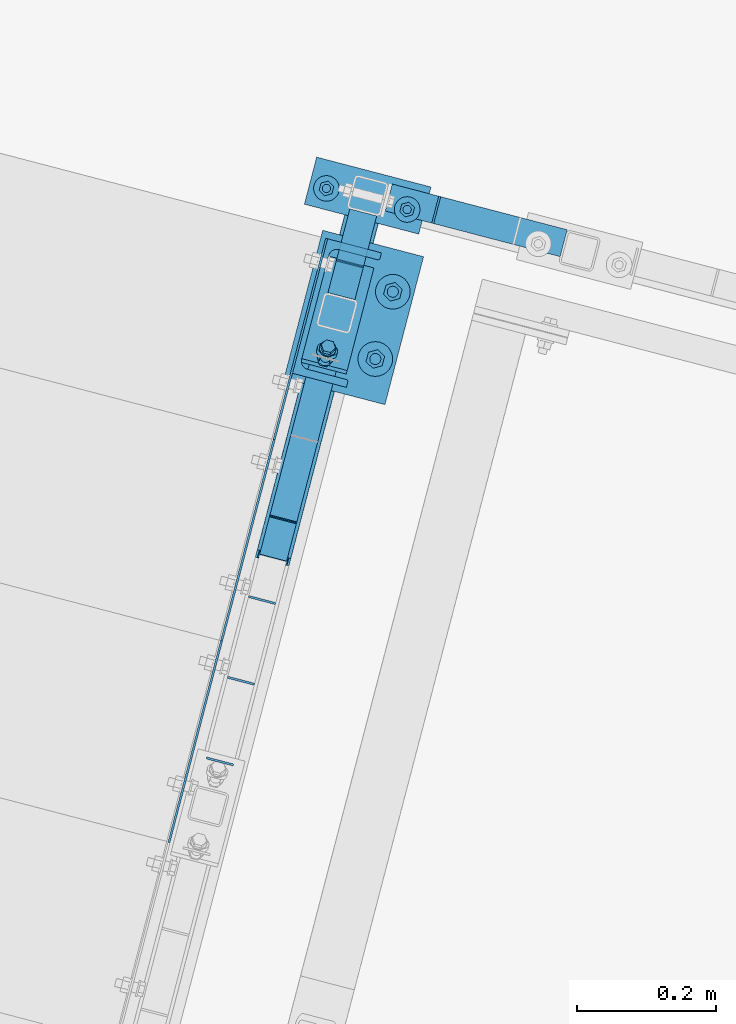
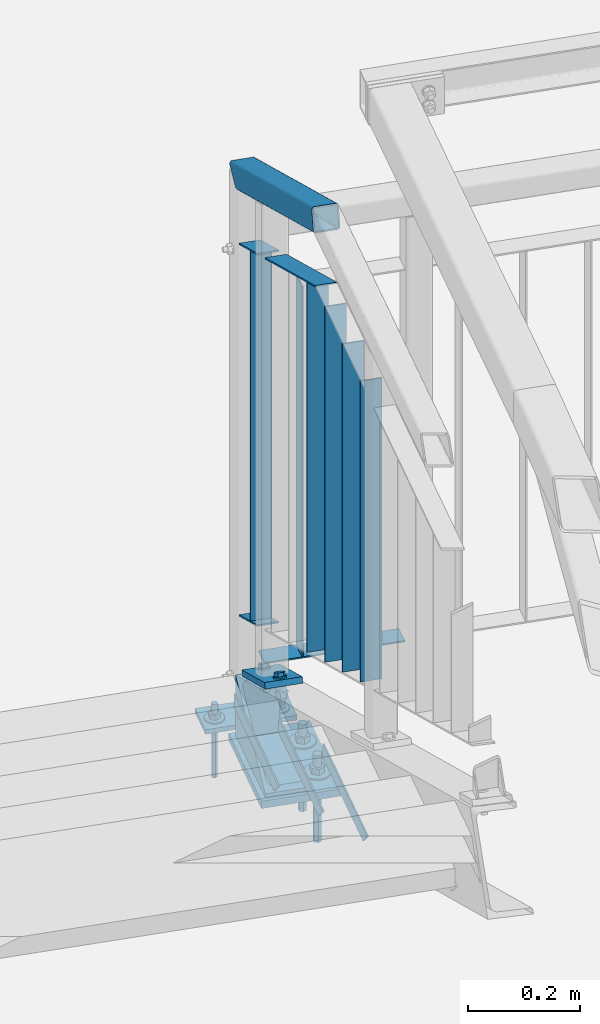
# One storey, part 94 of 169: 18 discrete accessories, 3 mechanical fasteners, 6 elements without a shape of their own.
"""IFC2X3 building model written with IfcOpenShell, lengths in millimetres."""

from ifc_helpers import new_model, si_unit, frame, frame_2d, origin_with_axes, origin_2d_with_axis, place, context, subcontext, project, spatial, polyline, circle_curve, parameter, trimmed, segment, composite_curve, rectangle, hollow_rectangle, circle, u_section, outline, extrude, boolean, clip, halfspace, source, transform, mapped, material, type_object, element, aggregate, save


model = new_model("IFC2X3")

# Units and contexts
model_context = context("Model", 3, precision=1e-05, world=origin_with_axes())
body_context = subcontext(model_context, "Body", "Model", "MODEL_VIEW")
ifc_project = project(units=[si_unit("LENGTHUNIT", "METRE", prefix="MILLI"), si_unit("AREAUNIT", "SQUARE_METRE"), si_unit("VOLUMEUNIT", "CUBIC_METRE"), si_unit("MASSUNIT", "GRAM", prefix="KILO"), si_unit("TIMEUNIT", "SECOND"), si_unit("PLANEANGLEUNIT", "RADIAN"), si_unit("SOLIDANGLEUNIT", "STERADIAN"), si_unit("THERMODYNAMICTEMPERATUREUNIT", "DEGREE_CELSIUS"), si_unit("LUMINOUSINTENSITYUNIT", "LUMEN")], contexts=[model_context])

# Site, building, storey
site_placement = place(None, origin_with_axes())
site = spatial("IfcSite", under=ifc_project, at=site_placement, Name="Undefined", CompositionType="ELEMENT")
building_placement = place(site_placement, origin_with_axes())
building = spatial("IfcBuilding", under=site, at=building_placement, Name="Undefined", CompositionType="ELEMENT")
storey_placement = place(building_placement, origin_with_axes())
storey = spatial("IfcBuildingStorey", under=building, at=storey_placement, Name="Undefined", CompositionType="ELEMENT", Elevation=0.0)

# Assembly, discrete accessories
assembly_1_placement = place(storey_placement, origin_with_axes())
assembly_1 = element("IfcElementAssembly", 1, at=assembly_1_placement, inside=storey, Name="Steel Assembly", AssemblyPlace="NOTDEFINED", PredefinedType="RIGID_FRAME")
ifc_material_1 = material(Name="STEEL/S235")
discrete_accessory_type_1 = type_object("IfcDiscreteAccessoryType", Name="BLACHA")
discrete_accessory_1_placement = place(assembly_1_placement, frame((-8625.82347102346, 20969.7358701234, 12570.4183764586), z_axis=(0.0, 0.0, 1.0), x_axis=(-0.252628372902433, -0.967563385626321, 0.0)))
discrete_accessory_1 = element("IfcDiscreteAccessory", 2, at=discrete_accessory_1_placement, type_object=discrete_accessory_type_1, material=ifc_material_1, Name="BLACHA", ObjectType="BL10*170", context=body_context, shape_type="SweptSolid", body=[
    extrude(outline(polyline([(70.0000000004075, -84.9999999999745), (-5.82076609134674e-11, -84.99999999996), (5.82076609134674e-11, 84.99999999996), (70.0000000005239, 84.9999999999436), (70.0000000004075, -84.9999999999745)])), frame((-1.81898926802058e-12, -1.18000176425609e-16, -5.00000000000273), z_axis=(0.0, 0.0, 1.0), x_axis=(1.0, 0.0, 0.0)), (0.0, 0.0, 1.0), 10.0),
])
discrete_accessory_2_placement = place(assembly_1_placement, frame((-8645.60302285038, 20755.4370199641, 12772.1166539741), z_axis=(0.111692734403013, 0.427781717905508, 0.896954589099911), x_axis=(-0.967563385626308, 0.252628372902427, -1.72000000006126e-07)))
discrete_accessory_2 = element("IfcDiscreteAccessory", 3, at=discrete_accessory_2_placement, type_object=discrete_accessory_type_1, material=ifc_material_1, Name="BLACHA", ObjectType="BL12*170", context=body_context, shape_type="SweptSolid", body=[
    extrude(outline(polyline([(70.0000000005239, 84.9999999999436), (70.0000000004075, -84.9999999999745), (-5.82076609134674e-11, -84.99999999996), (5.82076609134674e-11, 84.99999999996), (70.0000000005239, 84.9999999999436)])), frame((-1.81898942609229e-12, -1.81898940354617e-12, -5.99999999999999), z_axis=(0.0, 0.0, 1.0), x_axis=(1.0, 0.0, 0.0)), (0.0, 0.0, 1.0), 12.0),
])

# Assembly, discrete accessory
assembly_2_placement = place(storey_placement, origin_with_axes())
assembly_2 = element("IfcElementAssembly", 4, at=assembly_2_placement, inside=storey, Name="Steel Assembly", AssemblyPlace="NOTDEFINED", PredefinedType="RIGID_FRAME")
discrete_accessory_3_placement = place(assembly_2_placement, frame((-8682.3976213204, 20654.0980217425, 12573.7133592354), z_axis=(0.0, 0.0, 1.0), x_axis=(0.252628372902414, 0.967563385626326, 0.0)))
discrete_accessory_3 = element("IfcDiscreteAccessory", 5, at=discrete_accessory_3_placement, type_object=discrete_accessory_type_1, material=ifc_material_1, Name="BLACHA", ObjectType="BL16*150", context=body_context, shape_type="SweptSolid", body=[
    extrude(outline(polyline([(1.85900717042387e-09, 74.9999771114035), (219.999999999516, 74.9999999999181), (219.999999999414, -75.0000000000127), (-4.72937244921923e-11, -74.9999999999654), (1.85900717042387e-09, 74.9999771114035)])), frame((4.54778590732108e-13, 0.0, -8.0), z_axis=(0.0, 0.0, 1.0), x_axis=(1.0, 0.0, 0.0)), (0.0, 0.0, 1.0), 16.0),
])

# Assembly, discrete accessories
assembly_3_placement = place(storey_placement, origin_with_axes())
assembly_3 = element("IfcElementAssembly", 6, at=assembly_3_placement, inside=storey, Name="Steel Assembly", AssemblyPlace="NOTDEFINED", PredefinedType="RIGID_FRAME")
discrete_accessory_type_2 = type_object("IfcDiscreteAccessoryType", Name="PORĘCZ")
discrete_accessory_4_placement = place(assembly_3_placement, frame((-8536.08160922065, 20915.303540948, 13640.4183763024), z_axis=(0.967563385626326, -0.252628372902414, 0.0), x_axis=(-2.54700353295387e-10, 0.0, -1.0)))
discrete_accessory_4 = element("IfcDiscreteAccessory", 7, at=discrete_accessory_4_placement, type_object=discrete_accessory_type_2, material=ifc_material_1, Name="PORĘCZ", ObjectType="BL40*3", context=body_context, shape_type="Clipping", body=[
    clip(clip(clip(extrude(outline(polyline([(953.5, -20.0000000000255), (146.5, -20.0000000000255), (146.5, 20.0000000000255), (953.5, 20.0000000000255), (953.5, -20.0000000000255)])), frame((1.81898940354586e-12, -1.77635442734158e-15, -1.50000000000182), z_axis=(0.0, 0.0, 1.0), x_axis=(1.0, 0.0, 0.0)), (0.0, 0.0, 1.0), 3.0), halfspace(frame((146.5, 1000.00000000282, -1.78988557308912e-09), z_axis=(1.0, 0.0, 0.0), x_axis=(-2.54700353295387e-10, 0.0, -1.0)), True)), halfspace(frame((24.9999999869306, 1000.00000000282, -1.78988557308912e-09), z_axis=(1.0, 0.0, 0.0), x_axis=(-2.54700353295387e-10, 0.0, -1.0)), True)), halfspace(frame((953.5, 999.999999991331, -2.08819983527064e-09), z_axis=(-1.0, -3.46944695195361e-18, -1.38777878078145e-17), x_axis=(0.0, 0.0, 1.0)), True)),
])
discrete_accessory_5_placement = place(assembly_3_placement, frame((-8550.11127832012, 20918.9666523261, 12685.4183763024), z_axis=(0.0, 0.0, 1.0), x_axis=(0.967563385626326, -0.252628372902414, 0.0)))
discrete_accessory_5 = element("IfcDiscreteAccessory", 8, at=discrete_accessory_5_placement, type_object=discrete_accessory_type_2, material=ifc_material_1, Name="PORĘCZ", ObjectType="BL40*3", context=body_context, shape_type="CSG", body=[
    boolean("DIFFERENCE", boolean("DIFFERENCE", boolean("DIFFERENCE", extrude(outline(polyline([(-56.0820904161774, -20.0000000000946), (-56.0820904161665, 19.9999999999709), (204.000000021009, 20.0000000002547), (204.000000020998, -19.9999999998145), (-56.0820904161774, -20.0000000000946)])), frame((1.81898940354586e-12, -1.77635442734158e-15, -1.50000000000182), z_axis=(0.0, 0.0, 1.0), x_axis=(1.0, 0.0, 0.0)), (0.0, 0.0, 1.0), 3.0), extrude(rectangle(XDim=51.0, YDim=51.0, at=origin_2d_with_axis()), frame((230.00000000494, -2.41925590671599e-09, 140.0), z_axis=(-2.54700353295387e-10, 0.0, -1.0), x_axis=(-1.0, -3.46944695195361e-18, -1.38777878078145e-17)), (0.0, 0.0, 1.0), 280.0)), halfspace(frame((-56.0820904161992, 1000.0000000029, 0.0), z_axis=(1.0, 0.0, 0.0), x_axis=(-2.54700353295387e-10, 0.0, -1.0)), True)), halfspace(frame((204.0000000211, 999.999999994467, 0.0), z_axis=(-1.0, -3.46944695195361e-18, -1.38777878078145e-17), x_axis=(0.0, 0.0, 1.0)), True)),
])
aggregate(assembly_3, [discrete_accessory_4, discrete_accessory_5])

# Discrete accessory
discrete_accessory_6_placement = place(assembly_1_placement, frame((-8660.15321866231, 20838.25338393, 13787.2968376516), z_axis=(-0.252628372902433, -0.967563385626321, 0.0), x_axis=(-2.54700353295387e-10, 0.0, -1.0)))
discrete_accessory_6 = element("IfcDiscreteAccessory", 9, at=discrete_accessory_6_placement, type_object=discrete_accessory_type_2, material=ifc_material_1, Name="PORĘCZ", ObjectType="BL40*3", context=body_context, shape_type="Clipping", body=[
    clip(clip(extrude(outline(polyline([(941.939460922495, -19.9999999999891), (135.286984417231, -19.9999999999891), (135.286984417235, 19.9999999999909), (941.939460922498, 19.9999999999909), (941.939460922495, -19.9999999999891)])), frame((1.81898940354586e-12, -1.77635442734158e-15, -1.50000000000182), z_axis=(0.0, 0.0, 1.0), x_axis=(1.0, 0.0, 0.0)), (0.0, 0.0, 1.0), 3.0), halfspace(frame((134.957500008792, 999.999999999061, 0.665521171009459), z_axis=(0.89618489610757, -8.07050632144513e-16, 0.443680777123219), x_axis=(0.443680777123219, -6.25441316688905e-11, -0.89618489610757)), True)), halfspace(frame((942.26894532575, 999.999999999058, -0.665521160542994), z_axis=(-0.89618489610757, 8.07050632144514e-16, -0.443680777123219), x_axis=(-0.443680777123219, 6.25441316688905e-11, 0.89618489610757)), True)),
])

discrete_accessory_7_placement = place(assembly_1_placement, frame((-8661.82479639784, 20831.8512634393, 13656.9594152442), z_axis=(0.967563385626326, -0.252628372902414, 0.0), x_axis=(0.226401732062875, 0.867115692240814, -0.443680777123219)))
discrete_accessory_7 = element("IfcDiscreteAccessory", 10, at=discrete_accessory_7_placement, type_object=discrete_accessory_type_2, material=ifc_material_1, Name="PORĘCZ", ObjectType="BL40*3", context=body_context, shape_type="Clipping", body=[
    clip(clip(extrude(rectangle(XDim=3.0, YDim=40.0, at=origin_2d_with_axis()), frame((111.2647390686, 1.2352867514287e-14, -1.81546690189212e-12), z_axis=(-1.0, -3.46944695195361e-18, -1.38777878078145e-17), x_axis=(1.73472347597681e-18, -1.0, 0.0)), (0.0, 0.0, 1.0), 177.54), halfspace(frame((97.5561730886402, -11.0920194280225, 999.999999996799), z_axis=(-0.896184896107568, -0.443680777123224, -5.60462156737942e-11), x_axis=(0.44368077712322, -0.89618489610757, 2.77484007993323e-11)), True)), halfspace(frame((-52.5629519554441, 11.0920194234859, 1000.0000000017), z_axis=(0.896184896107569, 0.443680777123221, 5.60551815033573e-11), x_axis=(-0.443680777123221, 0.896184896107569, -2.77505023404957e-11)), True)),
])

discrete_accessory_8_placement = place(assembly_1_placement, frame((-8678.83970480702, 20766.6843848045, 12880.3036293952), z_axis=(0.967563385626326, -0.252628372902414, 0.0), x_axis=(0.226401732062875, 0.867115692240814, -0.443680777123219)))
discrete_accessory_8 = element("IfcDiscreteAccessory", 11, at=discrete_accessory_8_placement, type_object=discrete_accessory_type_2, material=ifc_material_1, Name="PORĘCZ", ObjectType="BL40*3", context=body_context, shape_type="CSG", body=[
    boolean("DIFFERENCE", boolean("DIFFERENCE", extrude(rectangle(XDim=3.0, YDim=40.0, at=origin_2d_with_axis()), frame((176.818367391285, -3.62816341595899e-12, 1.82344416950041e-12), z_axis=(-1.0, -3.46944695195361e-18, -1.38777878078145e-17), x_axis=(1.73472347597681e-18, -1.0, 0.0)), (0.0, 0.0, 1.0), 176.82), extrude(rectangle(XDim=51.0, YDim=51.0, at=origin_2d_with_axis()), frame((-62.1153087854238, 125.465885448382, -3.44399542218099e-09), z_axis=(0.44368077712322, -0.89618489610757, 2.77484007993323e-11), x_axis=(0.896184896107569, 0.443680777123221, 5.60551815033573e-11)), (0.0, 0.0, 1.0), 280.0)), halfspace(frame((172.70978775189, -11.0920194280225, 999.999999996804), z_axis=(-0.896184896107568, -0.443680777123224, -5.60462156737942e-11), x_axis=(0.44368077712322, -0.89618489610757, 2.77484007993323e-11)), True)),
])

discrete_accessory_9_placement = place(assembly_1_placement, frame((-8882.87970195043, 19985.2138454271, 14235.161986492), z_axis=(0.967563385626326, -0.252628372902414, 0.0), x_axis=(0.226401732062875, 0.867115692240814, -0.443680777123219)))
discrete_accessory_9 = element("IfcDiscreteAccessory", 12, at=discrete_accessory_9_placement, type_object=discrete_accessory_type_2, material=ifc_material_1, Name="PORĘCZ", ObjectType="SHS50*3", context=body_context, shape_type="Clipping", body=[
    clip(clip(extrude(hollow_rectangle(XDim=50.0, YDim=50.0, WallThickness=3.0, InnerFilletRadius=3.0, OuterFilletRadius=6.0, at=origin_2d_with_axis()), frame((1164.54989500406, 6.46455053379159e-14, 3.66003693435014e-12), z_axis=(-1.0, -3.46944695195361e-18, -1.38777878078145e-17), x_axis=(1.73472347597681e-18, -1.0, 0.0)), (0.0, 0.0, 1.0), 737.48), halfspace(frame((1111.86335061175, 25.0000000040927, -1.25510268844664e-10), z_axis=(0.849611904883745, -0.527408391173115, 5.31366933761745e-11), x_axis=(-2.54700353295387e-10, 0.0, -1.0)), False)), halfspace(frame((489.426209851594, 25.0000000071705, 3.73984221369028e-09), z_axis=(-0.973700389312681, -0.227832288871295, -6.09027876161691e-11), x_axis=(0.0, 0.0, 1.0)), False)),
])

discrete_accessory_10_placement = place(assembly_1_placement, frame((-8818.03424404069, 20233.5711087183, 13963.0839685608), z_axis=(0.967563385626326, -0.252628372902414, 0.0), x_axis=(0.226401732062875, 0.867115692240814, -0.443680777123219)))
discrete_accessory_10 = element("IfcDiscreteAccessory", 13, at=discrete_accessory_10_placement, type_object=discrete_accessory_type_2, material=ifc_material_1, Name="PORĘCZ", ObjectType="BL40*3", context=body_context, shape_type="CSG", body=[
    boolean("DIFFERENCE", boolean("DIFFERENCE", boolean("DIFFERENCE", extrude(rectangle(XDim=3.0, YDim=40.0, at=origin_2d_with_axis()), frame((606.54197081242, 3.36698430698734e-14, 2.1432836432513e-14), z_axis=(-1.0, -3.46944695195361e-18, -1.38777878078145e-17), x_axis=(1.73472347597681e-18, -1.0, 0.0)), (0.0, 0.0, 1.0), 417.12), extrude(rectangle(XDim=51.0, YDim=51.0, at=origin_2d_with_axis()), frame((-262.291557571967, 125.46588545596, -1.2037254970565e-08), z_axis=(0.44368077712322, -0.89618489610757, 2.77484007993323e-11), x_axis=(0.896184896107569, 0.443680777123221, 5.60551815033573e-11)), (0.0, 0.0, 1.0), 280.0)), halfspace(frame((592.593582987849, -11.0920194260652, 999.999999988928), z_axis=(-0.896184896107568, -0.443680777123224, -5.60462156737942e-11), x_axis=(0.44368077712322, -0.89618489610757, 2.77484007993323e-11)), True)), halfspace(frame((208.50720362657, 1.50000000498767, 1.57850081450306e-07), z_axis=(0.973700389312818, 0.22783228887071, 6.08992453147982e-11), x_axis=(-2.54700353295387e-10, 0.0, -1.0)), True)),
])

discrete_accessory_11_placement = place(assembly_1_placement, frame((-8847.21612635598, 20121.8048780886, 14165.2718715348), z_axis=(-0.252628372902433, -0.967563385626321, 0.0), x_axis=(-2.54700353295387e-10, 0.0, -1.0)))
discrete_accessory_11 = element("IfcDiscreteAccessory", 14, at=discrete_accessory_11_placement, type_object=discrete_accessory_type_2, material=ifc_material_1, Name="PORĘCZ", ObjectType="BL40*3", context=body_context, shape_type="Clipping", body=[
    clip(clip(extrude(outline(polyline([(953.326238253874, -19.9999999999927), (296.35426377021, -19.9999999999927), (296.35426377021, 19.9999999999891), (953.326238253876, 19.9999999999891), (953.326238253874, -19.9999999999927)])), frame((1.81898940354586e-12, -1.77635442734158e-15, -1.50000000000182), z_axis=(0.0, 0.0, 1.0), x_axis=(1.0, 0.0, 0.0)), (0.0, 0.0, 1.0), 3.0), halfspace(frame((296.354263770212, 999.9999999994, 5.73709257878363e-09), z_axis=(1.0, 0.0, 0.0), x_axis=(-2.54700353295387e-10, 0.0, -1.0)), True)), halfspace(frame((953.655722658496, 999.999999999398, -0.665521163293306), z_axis=(-0.89618489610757, 8.07050632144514e-16, -0.443680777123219), x_axis=(-0.443680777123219, 6.25441316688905e-11, 0.89618489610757)), True)),
])

discrete_accessory_12_placement = place(assembly_1_placement, frame((-8816.90072160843, 20237.9124843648, 14105.8625984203), z_axis=(-0.252628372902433, -0.967563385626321, 0.0), x_axis=(-2.54700353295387e-10, 0.0, -1.0)))
discrete_accessory_12 = element("IfcDiscreteAccessory", 15, at=discrete_accessory_12_placement, type_object=discrete_accessory_type_2, material=ifc_material_1, Name="PORĘCZ", ObjectType="BL40*3", context=body_context, shape_type="Clipping", body=[
    clip(clip(extrude(outline(polyline([(953.326238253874, -19.9999999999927), (236.944990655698, -19.9999999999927), (236.944990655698, 19.9999999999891), (953.326238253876, 19.9999999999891), (953.326238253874, -19.9999999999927)])), frame((1.81898940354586e-12, -1.77635442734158e-15, -1.50000000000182), z_axis=(0.0, 0.0, 1.0), x_axis=(1.0, 0.0, 0.0)), (0.0, 0.0, 1.0), 3.0), halfspace(frame((236.9449906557, 999.999999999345, 5.43877831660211e-09), z_axis=(1.0, 0.0, 0.0), x_axis=(-2.54700353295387e-10, 0.0, -1.0)), True)), halfspace(frame((953.655722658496, 999.999999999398, -0.665521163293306), z_axis=(-0.89618489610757, 8.07050632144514e-16, -0.443680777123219), x_axis=(-0.443680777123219, 6.25441316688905e-11, 0.89618489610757)), True)),
])

discrete_accessory_13_placement = place(assembly_1_placement, frame((-8786.58531686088, 20354.020090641, 14046.4533253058), z_axis=(-0.252628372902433, -0.967563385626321, 0.0), x_axis=(-2.54700353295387e-10, 0.0, -1.0)))
discrete_accessory_13 = element("IfcDiscreteAccessory", 16, at=discrete_accessory_13_placement, type_object=discrete_accessory_type_2, material=ifc_material_1, Name="PORĘCZ", ObjectType="BL40*3", context=body_context, shape_type="Clipping", body=[
    clip(clip(clip(extrude(outline(polyline([(953.326238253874, -19.9999999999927), (177.535717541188, -19.9999999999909), (177.535717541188, 19.9999999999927), (953.326238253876, 19.9999999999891), (953.326238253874, -19.9999999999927)])), frame((1.81898940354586e-12, -1.77635442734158e-15, -1.50000000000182), z_axis=(0.0, 0.0, 1.0), x_axis=(1.0, 0.0, 0.0)), (0.0, 0.0, 1.0), 3.0), halfspace(frame((177.53571754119, 999.999999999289, 5.12591213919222e-09), z_axis=(1.0, 0.0, 0.0), x_axis=(-2.54700353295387e-10, 0.0, -1.0)), True)), halfspace(frame((146.34427734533, 999.999999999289, 0.66552116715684), z_axis=(0.89618489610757, -8.07050632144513e-16, 0.443680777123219), x_axis=(0.443680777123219, -6.25441316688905e-11, -0.89618489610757)), True)), halfspace(frame((953.655722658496, 999.999999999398, -0.665521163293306), z_axis=(-0.89618489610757, 8.07050632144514e-16, -0.443680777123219), x_axis=(-0.443680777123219, 6.25441316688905e-11, 0.89618489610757)), True)),
])

discrete_accessory_14_placement = place(assembly_1_placement, frame((-8756.26991211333, 20470.1276969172, 13987.0440521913), z_axis=(-0.252628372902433, -0.967563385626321, 0.0), x_axis=(-2.54700353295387e-10, 0.0, -1.0)))
discrete_accessory_14 = element("IfcDiscreteAccessory", 17, at=discrete_accessory_14_placement, type_object=discrete_accessory_type_2, material=ifc_material_1, Name="PORĘCZ", ObjectType="BL40*3", context=body_context, shape_type="Clipping", body=[
    clip(clip(clip(extrude(outline(polyline([(953.326238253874, -19.9999999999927), (146.673761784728, -19.9999999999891), (146.67376178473, 19.9999999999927), (953.326238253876, 19.9999999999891), (953.326238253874, -19.9999999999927)])), frame((1.81898940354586e-12, -1.77635442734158e-15, -1.50000000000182), z_axis=(0.0, 0.0, 1.0), x_axis=(1.0, 0.0, 0.0)), (0.0, 0.0, 1.0), 3.0), halfspace(frame((146.34427734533, 999.999999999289, 0.66552116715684), z_axis=(0.89618489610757, -8.07050632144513e-16, 0.443680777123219), x_axis=(0.443680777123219, -6.25441316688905e-11, -0.89618489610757)), True)), halfspace(frame((146.34427734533, 999.999999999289, 0.66552116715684), z_axis=(0.89618489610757, -8.07050632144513e-16, 0.443680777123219), x_axis=(0.443680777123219, -6.25441316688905e-11, -0.89618489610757)), True)), halfspace(frame((953.655722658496, 999.999999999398, -0.665521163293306), z_axis=(-0.89618489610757, 8.07050632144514e-16, -0.443680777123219), x_axis=(-0.443680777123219, 6.25441316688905e-11, 0.89618489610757)), True)),
])

# Mechanical fastener
ifc_material_2 = material(Name="Undefined")
discrete_accessory_type_3 = type_object("IfcDiscreteAccessoryType", Name="Bolt assembly")
shared_shape_1 = source(origin_with_axes(), body_context, "Body", "SweptSolid", [
    extrude(outline(composite_curve([segment(polyline([(-7.5, 8.5), (7.5, 8.5)]), True, "CONTINUOUS"), segment(trimmed(circle_curve(frame_2d((7.5, 0.0), x_axis=(0.0, 1.0)), 8.5), [parameter(0.0)], [parameter(3.14159265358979)], False, "PARAMETER"), True, "CONTINUOUS"), segment(polyline([(7.5, -8.5), (-7.5, -8.5)]), True, "CONTINUOUS"), segment(trimmed(circle_curve(frame_2d((-7.5, 0.0), x_axis=(0.0, -1.0)), 8.5), [parameter(0.0)], [parameter(3.14159265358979)], False, "PARAMETER"), True, "DISCONTINUOUS")], self_intersect=False)), frame((0.0, -10.0, 0.0), z_axis=(0.0, 1.0, 0.0), x_axis=(1.0, 0.0, 0.0)), (0.0, 0.0, 1.0), 10.1),
    extrude(outline(polyline([(5.80237031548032, 0.0), (2.90118515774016, 5.02500009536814), (-2.90118515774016, 5.02500009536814), (-5.80237031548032, 0.0), (-2.90118515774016, -5.02500009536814), (2.90118515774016, -5.02500009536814), (5.80237031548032, 0.0)])), frame((0.0, -126.0, 0.0), z_axis=(0.0, 1.0, 0.0), x_axis=(1.0, 0.0, 0.0)), (0.0, 0.0, 1.0), 116.0),
    extrude(circle(Radius=6.0, at=origin_2d_with_axis()), frame((0.0, -10.0, 0.0), z_axis=(0.0, 1.0, 0.0), x_axis=(1.0, 0.0, 0.0)), (0.0, 0.0, 1.0), 44.0),
    extrude(circle(Radius=18.5, at=origin_2d_with_axis()), frame((0.0, 0.0, 0.0), z_axis=(0.0, 1.0, 0.0), x_axis=(1.0, 0.0, 0.0)), (0.0, 0.0, 1.0), 3.0),
    extrude(outline(polyline([(10.96965511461, 0.0), (5.484827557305, 9.50000000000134), (-5.484827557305, 9.50000000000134), (-10.96965511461, 0.0), (-5.484827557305, -9.50000000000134), (5.484827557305, -9.50000000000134), (10.96965511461, 0.0)])), frame((0.0, 2.99999999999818, 0.0), z_axis=(0.0, 1.0, 0.0), x_axis=(1.0, 0.0, 0.0)), (0.0, 0.0, 1.0), 10.0),
])
mechanical_fastener_1_placement = place(assembly_1_placement, frame((-8639.71803153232, 20916.5198839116, 12575.4183764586), z_axis=(0.967563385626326, -0.252628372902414, 0.0), x_axis=(0.252628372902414, 0.967563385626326, 0.0)))
mechanical_fastener_1 = element("IfcMechanicalFastener", 18, at=mechanical_fastener_1_placement, type_object=discrete_accessory_type_3, material=ifc_material_2, Name="Bolt assembly", NominalDiameter=12.0, NominalLength=44.0, context=body_context, shape_type="MappedRepresentation", body=[
    mapped(shared_shape_1, transform((15.0000000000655, 0.0, -59.9999999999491))),
    mapped(shared_shape_1, transform((15.0000000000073, 0.0, 59.9999999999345))),
])

# Assembly, discrete accessory
assembly_4_placement = place(storey_placement, origin_with_axes())
assembly_4 = element("IfcElementAssembly", 19, at=assembly_4_placement, inside=storey, Name="Steel Assembly", AssemblyPlace="NOTDEFINED", PredefinedType="RIGID_FRAME")
ifc_material_3 = material(Name="STEEL/S235JR")
discrete_accessory_type_4 = type_object("IfcDiscreteAccessoryType", Name="ANGLE")
discrete_accessory_15_placement = place(assembly_4_placement, frame((-8844.79103921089, 20295.3658513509, 12953.5365255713), z_axis=(-0.967563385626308, 0.252628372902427, -1.72000000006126e-07), x_axis=(-0.252628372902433, -0.967563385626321, 0.0)))
discrete_accessory_15 = element("IfcDiscreteAccessory", 20, at=discrete_accessory_15_placement, type_object=discrete_accessory_type_4, material=ifc_material_3, Name="ANGLE", ObjectType="3*30", context=body_context, shape_type="CSG", body=[
    boolean("DIFFERENCE", extrude(rectangle(XDim=30.0, YDim=3.0, at=origin_2d_with_axis()), frame((300.000000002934, 1.81898940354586e-12, -1.81898940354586e-12), z_axis=(-1.0, -3.46944695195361e-18, -1.38777878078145e-17), x_axis=(1.73472347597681e-18, -1.0, 0.0)), (0.0, 0.0, 1.0), 300.0), extrude(outline(polyline([(0.0, 0.0), (30.0000000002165, -6.73026079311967e-11), (-1.63709046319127e-10, 30.0000000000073), (0.0, 0.0)])), frame((300.000000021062, -15.0000000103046, 4.50000000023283), z_axis=(-2.54700353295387e-10, 0.0, -1.0), x_axis=(-1.0, -3.46944695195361e-18, -1.38777878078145e-17)), (0.0, 0.0, 1.0), 9.0)),
])
aggregate(assembly_4, [discrete_accessory_15])

assembly_5_placement = place(storey_placement, origin_with_axes())
assembly_5 = element("IfcElementAssembly", 21, at=assembly_5_placement, inside=storey, Name="Steel Assembly", AssemblyPlace="NOTDEFINED", PredefinedType="RIGID_FRAME")
discrete_accessory_16_placement = place(assembly_5_placement, frame((-8769.23983401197, 20584.7259855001, 12806.1249424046), z_axis=(-0.967563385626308, 0.252628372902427, -1.72000000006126e-07), x_axis=(-0.252628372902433, -0.967563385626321, 0.0)))
discrete_accessory_16 = element("IfcDiscreteAccessory", 22, at=discrete_accessory_16_placement, type_object=discrete_accessory_type_4, material=ifc_material_3, Name="ANGLE", ObjectType="3*30", context=body_context, shape_type="CSG", body=[
    boolean("DIFFERENCE", extrude(rectangle(XDim=30.0, YDim=3.0, at=origin_2d_with_axis()), frame((300.000000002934, 1.81898940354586e-12, -1.81898940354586e-12), z_axis=(-1.0, -3.46944695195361e-18, -1.38777878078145e-17), x_axis=(1.73472347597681e-18, -1.0, 0.0)), (0.0, 0.0, 1.0), 300.0), extrude(outline(polyline([(0.0, 0.0), (30.0000000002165, -6.73026079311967e-11), (-1.63709046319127e-10, 30.0000000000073), (0.0, 0.0)])), frame((300.000000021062, -15.0000000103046, 4.50000000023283), z_axis=(-2.54700353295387e-10, 0.0, -1.0), x_axis=(-1.0, -3.46944695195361e-18, -1.38777878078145e-17)), (0.0, 0.0, 1.0), 9.0)),
])
aggregate(assembly_5, [discrete_accessory_16])

assembly_6_placement = place(storey_placement, origin_with_axes())
assembly_6 = element("IfcElementAssembly", 23, at=assembly_6_placement, inside=storey, Name="Steel Assembly", AssemblyPlace="NOTDEFINED", PredefinedType="RIGID_FRAME")
discrete_accessory_17_placement = place(assembly_6_placement, frame((-8693.68862881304, 20874.0861196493, 12658.713359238), z_axis=(-0.967563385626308, 0.252628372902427, -1.72000000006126e-07), x_axis=(-0.252628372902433, -0.967563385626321, 0.0)))
discrete_accessory_17 = element("IfcDiscreteAccessory", 24, at=discrete_accessory_17_placement, type_object=discrete_accessory_type_4, material=ifc_material_3, Name="ANGLE", ObjectType="3*30", context=body_context, shape_type="CSG", body=[
    boolean("DIFFERENCE", extrude(rectangle(XDim=30.0, YDim=3.0, at=origin_2d_with_axis()), frame((300.000000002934, 1.81898940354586e-12, -1.81898940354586e-12), z_axis=(-1.0, -3.46944695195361e-18, -1.38777878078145e-17), x_axis=(1.73472347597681e-18, -1.0, 0.0)), (0.0, 0.0, 1.0), 300.0), extrude(outline(polyline([(0.0, 0.0), (30.0000000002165, -6.73026079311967e-11), (-1.63709046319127e-10, 30.0000000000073), (0.0, 0.0)])), frame((300.000000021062, -15.0000000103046, 4.50000000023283), z_axis=(-2.54700353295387e-10, 0.0, -1.0), x_axis=(-1.0, -3.46944695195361e-18, -1.38777878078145e-17)), (0.0, 0.0, 1.0), 9.0)),
])
aggregate(assembly_6, [discrete_accessory_17])

# Mechanical fastener
shared_shape_2 = source(origin_with_axes(), body_context, "Body", "SweptSolid", [
    extrude(outline(composite_curve([segment(polyline([(7.5, 7.5), (7.5, -7.5)]), True, "CONTINUOUS"), segment(trimmed(circle_curve(frame_2d((0.0, -7.5), x_axis=(1.0, 0.0)), 7.5), [parameter(0.0)], [parameter(3.14159265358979)], False, "PARAMETER"), True, "CONTINUOUS"), segment(polyline([(-7.5, -7.5), (-7.5, 7.5)]), True, "CONTINUOUS"), segment(trimmed(circle_curve(frame_2d((0.0, 7.5), x_axis=(-1.0, 0.0)), 7.5), [parameter(0.0)], [parameter(3.14159265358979)], False, "PARAMETER"), True, "DISCONTINUOUS")], self_intersect=False)), frame((0.0, 0.900000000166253, 0.0), z_axis=(0.0, 1.0, 0.0), x_axis=(1.0, 0.0, 0.0)), (0.0, 0.0, 1.0), 11.1),
    extrude(outline(composite_curve([segment(polyline([(-7.5, 7.5), (7.5, 7.5)]), True, "CONTINUOUS"), segment(trimmed(circle_curve(frame_2d((7.5, 0.0), x_axis=(0.0, 1.0)), 7.5), [parameter(0.0)], [parameter(3.14159265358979)], False, "PARAMETER"), True, "CONTINUOUS"), segment(polyline([(7.5, -7.5), (-7.5, -7.5)]), True, "CONTINUOUS"), segment(trimmed(circle_curve(frame_2d((-7.5, 0.0), x_axis=(0.0, -1.0)), 7.5), [parameter(0.0)], [parameter(3.14159265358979)], False, "PARAMETER"), True, "DISCONTINUOUS")], self_intersect=False)), frame((0.0, -11.9000000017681, 0.0), z_axis=(0.0, 1.0, 0.0), x_axis=(1.0, 0.0, 0.0)), (0.0, 0.0, 1.0), 12.0),
    extrude(outline(polyline([(10.39230484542, 0.0), (5.19615242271, 9.00000000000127), (-5.19615242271, 9.00000000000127), (-10.39230484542, 0.0), (-5.19615242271, -9.00000000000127), (5.19615242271, -9.00000000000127), (10.39230484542, 0.0)])), frame((0.0, -22.5000000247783, 0.0), z_axis=(0.0, 1.0, 0.0), x_axis=(1.0, 0.0, 0.0)), (0.0, 0.0, 1.0), 7.5),
    extrude(circle(Radius=6.0, at=origin_2d_with_axis()), frame((0.0, -15.0000000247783, 0.0), z_axis=(0.0, 1.0, 0.0), x_axis=(1.0, 0.0, 0.0)), (0.0, 0.0, 1.0), 45.0),
    extrude(circle(Radius=12.0, at=origin_2d_with_axis()), frame((0.0, -15.0000000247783, 0.0), z_axis=(0.0, 1.0, 0.0), x_axis=(1.0, 0.0, 0.0)), (0.0, 0.0, 1.0), 3.0),
    extrude(circle(Radius=12.0, at=origin_2d_with_axis()), frame((0.0, 12.000000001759, 0.0), z_axis=(0.0, 1.0, 0.0), x_axis=(1.0, 0.0, 0.0)), (0.0, 0.0, 1.0), 3.0),
    extrude(outline(polyline([(10.96965511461, 0.0), (5.484827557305, 9.50000000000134), (-5.484827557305, 9.50000000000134), (-10.96965511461, 0.0), (-5.484827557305, -9.50000000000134), (5.484827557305, -9.50000000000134), (10.96965511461, 0.0)])), frame((0.0, 14.9999935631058, 0.0), z_axis=(0.0, 1.0, 0.0), x_axis=(1.0, 0.0, 0.0)), (0.0, 0.0, 1.0), 10.0),
])
mechanical_fastener_2_placement = place(assembly_1_placement, frame((-8704.3269823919, 20768.0280320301, 12766.7349264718), z_axis=(0.226596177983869, 0.867860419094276, -0.442122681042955), x_axis=(0.967563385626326, -0.252628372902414, 0.0)))
mechanical_fastener_2 = element("IfcMechanicalFastener", 25, at=mechanical_fastener_2_placement, type_object=discrete_accessory_type_3, material=ifc_material_2, Name="Bolt assembly", NominalDiameter=12.0, NominalLength=45.0, context=body_context, shape_type="MappedRepresentation", body=[
    mapped(shared_shape_2, transform((24.9999999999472, 0.0, -60.0000000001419))),
    mapped(shared_shape_2, transform((24.9999999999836, -3.54702933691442e-11, 60.0000000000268))),
])

aggregate(assembly_1, [mechanical_fastener_1, discrete_accessory_1, mechanical_fastener_2, discrete_accessory_2, discrete_accessory_6, discrete_accessory_7, discrete_accessory_8, discrete_accessory_9, discrete_accessory_10, discrete_accessory_11, discrete_accessory_12, discrete_accessory_13, discrete_accessory_14])

shared_shape_3 = source(origin_with_axes(), body_context, "Body", "SweptSolid", [
    extrude(outline(composite_curve([segment(polyline([(-12.5, 10.5), (12.5, 10.5)]), True, "CONTINUOUS"), segment(trimmed(circle_curve(frame_2d((12.5, 0.0), x_axis=(0.0, 1.0)), 10.5), [parameter(0.0)], [parameter(3.14159265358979)], False, "PARAMETER"), True, "CONTINUOUS"), segment(polyline([(12.5, -10.5), (-12.5, -10.5)]), True, "CONTINUOUS"), segment(trimmed(circle_curve(frame_2d((-12.5, 0.0), x_axis=(0.0, -1.0)), 10.5), [parameter(0.0)], [parameter(3.14159265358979)], False, "PARAMETER"), True, "DISCONTINUOUS")], self_intersect=False)), frame((0.0, -16.0000000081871, 0.0), z_axis=(0.0, 1.0, 0.0), x_axis=(1.0, 0.0, 0.0)), (0.0, 0.0, 1.0), 16.1),
    extrude(outline(polyline([(7.73649338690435, 0.0), (3.86824669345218, 6.69999980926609), (-3.86824669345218, 6.69999980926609), (-7.73649338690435, 0.0), (-3.86824669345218, -6.69999980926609), (3.86824669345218, -6.69999980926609), (7.73649338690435, 0.0)])), frame((0.0, -148.0, 0.0), z_axis=(0.0, 1.0, 0.0), x_axis=(1.0, 0.0, 0.0)), (0.0, 0.0, 1.0), 132.0),
    extrude(circle(Radius=8.0, at=origin_2d_with_axis()), frame((0.0, -16.0000000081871, 0.0), z_axis=(0.0, 1.0, 0.0), x_axis=(1.0, 0.0, 0.0)), (0.0, 0.0, 1.0), 58.0),
    extrude(circle(Radius=25.0, at=origin_2d_with_axis()), frame((0.0, 0.0, 0.0), z_axis=(0.0, 1.0, 0.0), x_axis=(1.0, 0.0, 0.0)), (0.0, 0.0, 1.0), 3.0),
    extrude(outline(polyline([(13.85640646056, 0.0), (6.92820323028, 12.0000000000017), (-6.92820323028, 12.0000000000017), (-13.85640646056, 0.0), (-6.92820323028, -12.0000000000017), (6.92820323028, -12.0000000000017), (13.85640646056, 0.0)])), frame((0.0, 2.99999999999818, 0.0), z_axis=(0.0, 1.0, 0.0), x_axis=(1.0, 0.0, 0.0)), (0.0, 0.0, 1.0), 13.0),
])
mechanical_fastener_3_placement = place(assembly_2_placement, frame((-8653.53474765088, 20863.6020420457, 12581.7133592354), z_axis=(-0.967563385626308, 0.252628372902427, -1.72000000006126e-07), x_axis=(-0.252628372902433, -0.967563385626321, 0.0)))
mechanical_fastener_3 = element("IfcMechanicalFastener", 26, at=mechanical_fastener_3_placement, type_object=discrete_accessory_type_3, material=ifc_material_2, Name="Bolt assembly", NominalDiameter=16.0, NominalLength=58.0, context=body_context, shape_type="MappedRepresentation", body=[
    mapped(shared_shape_3, transform((50.0000000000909, 1.14596332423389e-10, -69.9999999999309))),
    mapped(shared_shape_3, transform((150.000000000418, 0.0, -70.0000000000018))),
])

# Discrete accessory
discrete_accessory_type_5 = type_object("IfcDiscreteAccessoryType", Name="BELKA")
discrete_accessory_18_placement = place(assembly_2_placement, frame((-8678.79758494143, 20766.8457034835, 12713.7133592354), z_axis=(0.252628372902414, 0.967563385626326, 0.0), x_axis=(-2.54700353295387e-10, 0.0, -1.0)))
discrete_accessory_18 = element("IfcDiscreteAccessory", 27, at=discrete_accessory_18_placement, type_object=discrete_accessory_type_5, material=ifc_material_1, Name="BELKA", ObjectType="UPE200", context=body_context, shape_type="Clipping", body=[
    clip(clip(extrude(u_section(Depth=200.0, FlangeWidth=80.0, WebThickness=7.5, FlangeThickness=11.0, FilletRadius=12.0, EdgeRadius=3.0, at=origin_2d_with_axis()), frame((132.0, 0.0, 0.0), z_axis=(-1.0, -3.46944695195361e-18, -1.38777878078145e-17), x_axis=(1.73472347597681e-18, -1.0, 0.0)), (0.0, 0.0, 1.0), 132.62), halfspace(frame((132.0, 3.74711817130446e-10, -99.999999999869), z_axis=(-1.0, -3.46944695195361e-18, -1.38777878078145e-17), x_axis=(0.0, 1.0, 0.0)), True)), halfspace(frame((124.39366003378, -4.41257725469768e-07, -100.000000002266), z_axis=(-0.849153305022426, 0.0, -0.528146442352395), x_axis=(0.0, 1.0, 0.0)), False)),
])

aggregate(assembly_2, [mechanical_fastener_3, discrete_accessory_3, discrete_accessory_18])

save(model, "model.ifc")
